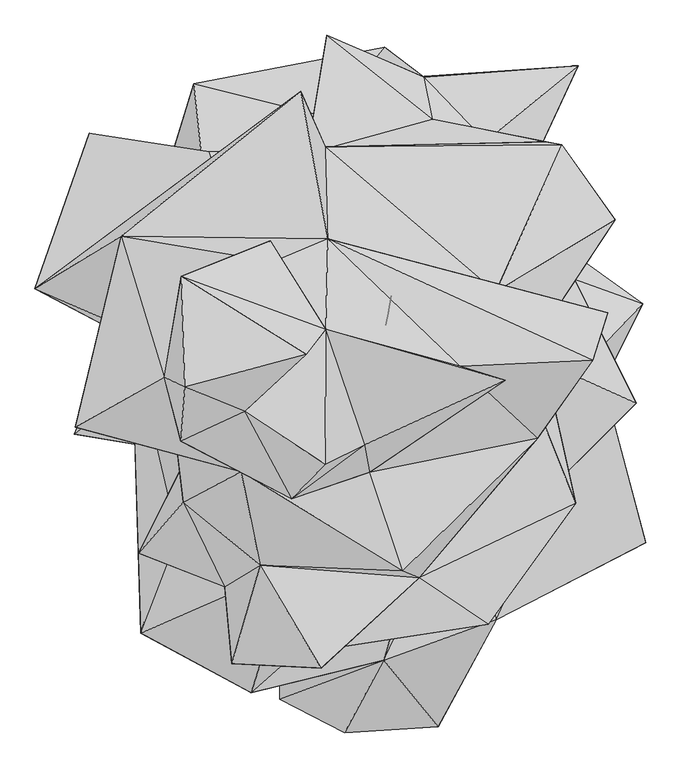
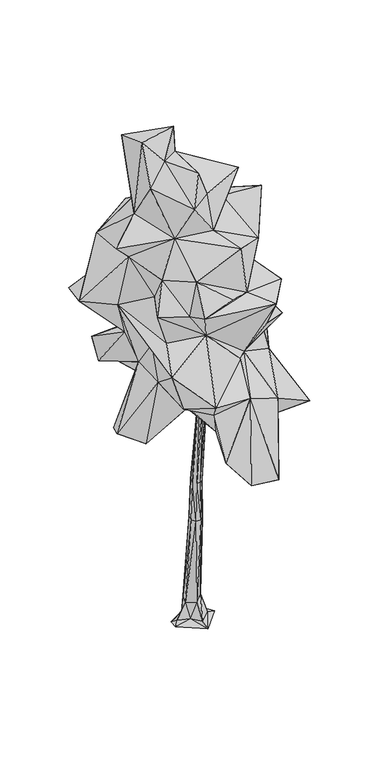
"""IFC4 building model written with IfcOpenShell, lengths in millimetres: geographic element geometry, Enscape AssetDefinition - Coniferous Tree 009 Pine : Enscape AssetDefinition - Coniferous Tree 009 Pine."""

from ifc_helpers import new_model, si_unit, origin, place, context, project, spatial, triangles, source, transform, mapped, element, save


def geographic_element_6488e99b(model_context):
    return source(origin(), model_context, "Body", "Tessellation", [
        triangles([(499.1071077, -53.7923425, -8.8e-06), (82.765088, -526.4381066, -8.58e-05), (339.292662, -63.4904197, 45.2996287), (148.7649384, 65.0087227, 469.814855), (178.4494819, -66.7721098, 534.6632586), (-2.2236776, 257.9543856, 68.2709645), (182.0356547, 416.6829964, 6.79e-05), (-124.7051879, 162.7058026, 52.4895922), (-120.9819504, 102.3085808, 488.2888364), (-429.4691709, 53.2955251, 8.7e-06), (-342.1794044, -49.5813986, 65.3348065), (-151.8270517, -44.1196816, 436.7688706), (-125.9190037, -216.0081995, 2517.1225204), (-436.3051635, -143.9629968, -2.35e-05), (-120.2130203, -194.1723958, 114.8973291), (5.5877693, -219.116113, 474.5141685), (40.9406015, -384.6553001, 113.2717561), (-84.3049195, -377.3055307, 3476.4136757), (-61.1686682, -309.5871351, 2517.1225204), (-141.0944128, -302.0524751, 3476.413385), (42.945421, -321.6737884, 2517.1225204), (55.4958268, -343.8549199, 3476.4136757), (104.521945, -265.009024, 2517.1225204), (88.3457248, -258.9421341, 3476.4136757), (143.0284336, -165.474093, 2517.1225204), (107.5918339, -87.1927247, 2517.1225204), (58.1143534, -192.1596734, 3476.4136757), (98.5445028, 247.2665387, 63.463173), (53.6780417, 145.9021226, 548.1573478), (-9.5415506, -54.1181266, 2517.1225204), (-55.7348111, 134.6954211, 466.5112049), (-41.8128048, -143.7232676, 3476.413385), (-45.7711297, -466.9402122, 6320.6636124), (-112.7295381, -515.285735, 6320.6636124), (-104.3563301, -98.8741701, 2517.1225204), (-122.6990785, -202.1246538, 3476.4136757), (-127.9569244, -598.0060129, 6320.6636124), (-79.128891, -654.9337881, 6320.6636124), (34.7813299, -632.6106594, 6320.6636124), (-14.5746986, -657.5386436, 6320.6636124), (0.0292247, -384.6513033, 3476.413385), (61.9746192, -562.3186927, 6320.6636124), (36.9491573, -507.0359116, 6320.6636124), (-1356.8218323, 279.5691454, 7175.8573425), (-1365.5029884, 899.681349, 8575.2515762), (-2197.8383755, 1028.8288439, 8072.2067001), (-732.2970892, 1318.6780849, 9539.1723907), (-2576.096537, -50.2614397, 8533.3070435), (-1214.3785646, 417.0926371, 8951.6094177), (-1680.3625488, -665.164559, 10705.6988617), (-1977.4500835, 313.77725, 9763.299408), (-1676.6476593, -444.5759886, 9535.3766922), (-941.8339359, 280.6309084, 11604.0986755), (-920.7576788, 136.5446633, 10697.1610107), (-1559.8701942, 33.9837905, 12142.8064911), (-1120.6977276, -903.1876757, 11913.1321381), (-1536.5592625, -730.1845728, 12402.0290405), (-1563.2654812, -1108.0381805, 11529.7694916), (-691.9871223, -506.9037249, 12372.485495), (-794.3387238, -1509.3737125, 11000.2576263), (-562.7196856, -1267.9728951, 11651.9271515), (-1144.1996361, -1321.061079, 10312.8030762), (-287.3642183, -1133.8520119, 10982.1017578), (687.6163862, -686.516744, 11007.1339508), (911.3175573, -1087.0480373, 9467.4883942), (-252.572483, -1323.0560154, 10202.0284424), (373.3446533, -587.5357944, 10385.1602875), (-558.7691637, -333.7139328, 11617.3560059), (1294.3614006, -549.133124, 10273.865918), (-1013.4209181, -1971.1610779, 9610.8988266), (-22.3387369, -2006.7570156, 10091.7654053), (-1258.5358257, -2120.4221706, 8958.6438721), (-1545.6007164, -1531.3594345, 9578.4356918), (-590.7331647, -2682.588002, 9477.0785065), (-2295.2113564, -1010.8976709, 10283.8315887), (-1427.2189888, -1030.8734138, 8837.7198578), (-1856.0279892, -1885.7301006, 9002.9725616), (-1904.95509, -405.1574644, 8431.8876526), (-1584.4989235, -1776.5632175, 8218.2483673), (-1840.0977116, -2440.0217033, 7883.7251816), (-1639.8459812, -2540.4670258, 7111.5914978), (-1360.5640457, -801.9786644, 7525.4261215), (-1058.3256626, 1101.9397882, 5884.9843918), (-2302.65378, -1058.5864752, 5864.2693771), (-1342.2295544, -262.1612509, 6775.2283081), (-1575.0163628, -959.7411278, 5300.2590363), (-2087.457613, -551.6418371, 5624.3718109), (-779.004122, -1185.7295866, 6013.6614212), (-457.1203174, -222.1913795, 5691.7159561), (361.9658784, -600.082158, 5799.6250671), (382.9543865, -1901.8224323, 5209.2064545), (-669.3983849, -2141.633812, 5991.6116043), (-427.4695836, -3132.4759483, 5206.3560471), (220.9383492, -3088.8521576, 5101.6362762), (-156.4354368, -2627.0347069, 6919.3328842), (-878.5474646, -2900.2040794, 5767.3380844), (-872.4668037, -2428.7418686, 6630.1482101), (-1445.9294746, -1204.0095028, 6892.7350891), (626.3217264, -2348.2265797, 6467.7703308), (75.9096289, -1831.7597031, 7297.6510712), (721.6814581, 505.2440151, 5965.7003952), (-8.2420239, 517.3977791, 5325.1458893), (24.5630651, 1417.7980522, 5371.7506027), (677.1721836, 830.0088575, 5188.2455246), (-150.6028441, 1625.3188156, 6297.3749176), (-1647.1552734, 804.8417164, 6253.5200363), (-1473.2371101, 1371.7877792, 6449.3284332), (125.429317, 1416.3665989, 6908.2085632), (1193.0970875, 1496.7124214, 6686.1825806), (551.8143193, 972.5363497, 7049.3540176), (184.8431869, 1126.5005711, 7377.3020233), (-546.0167444, 1137.9458027, 6658.5865906), (-550.2874866, 1709.3892654, 7257.8866379), (1449.0792824, 427.3337634, 8156.3550522), (970.7761374, 967.5304052, 7833.8497375), (-560.4777803, 934.5789282, 8397.6914841), (1080.7904251, 948.0983065, 8384.9742371), (-687.3390776, 886.2881258, 7700.5898483), (-543.1696072, 294.0186268, 10283.3781281), (620.476807, -72.6951267, 9341.36586), (790.2023483, -570.8338706, 8898.899263), (1398.3566517, -218.2928166, 9789.8036041), (1004.3963236, 343.169206, 7516.838855), (1176.2079294, -1540.434462, 8662.3113785), (570.5123059, -2379.1408264, 8790.369841), (-1209.2026451, -2652.3195007, 9198.5838776), (89.9816624, -2056.5395874, 9032.0998535), (530.8698492, -1169.0081509, 6926.1051453), (1594.5111031, -845.2720974, 7274.7437485), (956.5359455, -557.5883855, 8169.9484085), (770.5134338, -1666.7164341, 7816.4217316), (599.7344321, 218.9447572, 6911.8810135), (1300.8235062, -507.2203843, 6995.4788177), (1368.7632545, -705.149037, 6414.0398895), (-807.4443192, -1991.432515, 8272.4008759), (-1075.5533175, -2853.2522942, 7132.1640793), (1641.7772587, -153.1945191, 6487.6319092), (1661.9437603, -1812.4956173, 5726.4161636), (1034.2796013, -759.2070019, 6020.9627197), (1084.3506729, -1522.4647739, 5465.8500916), (797.8689589, -1538.856506, 5706.3144836)], [[141, 140, 99], [140, 138, 99], [141, 139, 140], [138, 140, 139], [101, 137, 139], [137, 101, 132], [132, 133, 137], [139, 137, 134], [137, 133, 134], [139, 134, 138], [138, 134, 99], [100, 135, 136], [133, 128, 134], [134, 128, 99], [128, 135, 100], [129, 128, 133], [123, 129, 133], [132, 123, 133], [130, 129, 123], [129, 131, 128], [131, 129, 130], [131, 125, 128], [126, 135, 125], [135, 128, 125], [126, 127, 74], [126, 125, 127], [131, 124, 125], [131, 130, 124], [124, 127, 125], [123, 121, 130], [124, 130, 121], [124, 121, 127], [69, 121, 122], [122, 119, 69], [120, 122, 121], [119, 122, 120], [123, 114, 121], [114, 120, 121], [114, 117, 120], [117, 116, 120], [116, 119, 120], [118, 45, 116], [115, 117, 114], [115, 116, 117], [115, 114, 123], [116, 115, 118], [110, 115, 123], [110, 123, 132], [111, 115, 110], [118, 115, 111], [118, 111, 113], [113, 112, 118], [107, 112, 105], [105, 112, 108], [110, 108, 111], [108, 112, 113], [108, 113, 111], [109, 108, 110], [109, 132, 101], [132, 109, 110], [104, 109, 101], [103, 105, 108], [103, 109, 104], [108, 109, 103], [83, 106, 107], [83, 107, 105], [83, 105, 103], [102, 104, 101], [103, 104, 102], [83, 103, 102], [89, 83, 102], [89, 102, 101], [90, 101, 139], [89, 101, 90], [139, 141, 91], [141, 99, 91], [91, 90, 139], [91, 99, 94], [100, 95, 128], [95, 100, 136], [99, 128, 95], [99, 95, 94], [81, 97, 136], [81, 98, 97], [97, 95, 136], [95, 97, 96], [93, 95, 96], [95, 93, 94], [93, 91, 94], [92, 97, 98], [92, 96, 97], [92, 93, 96], [93, 92, 91], [89, 90, 88], [88, 90, 91], [92, 88, 91], [88, 92, 98], [89, 88, 86], [88, 98, 86], [86, 98, 84], [87, 86, 84], [86, 87, 89], [84, 85, 87], [85, 106, 83], [84, 98, 85], [85, 83, 89], [87, 85, 89], [82, 85, 98], [81, 136, 80], [82, 98, 80], [136, 135, 80], [80, 98, 81], [135, 79, 80], [78, 85, 82], [79, 78, 80], [78, 82, 80], [78, 52, 48], [76, 78, 79], [78, 76, 52], [79, 135, 77], [77, 76, 79], [135, 72, 77], [135, 126, 72], [73, 76, 77], [72, 73, 77], [76, 73, 52], [52, 73, 62], [50, 75, 62], [75, 52, 62], [74, 70, 126], [62, 73, 70], [72, 70, 73], [74, 127, 70], [126, 70, 72], [70, 71, 62], [70, 127, 71], [121, 65, 127], [71, 127, 65], [69, 65, 121], [67, 65, 69], [67, 69, 119], [68, 67, 119], [64, 67, 68], [64, 66, 67], [71, 65, 66], [62, 71, 66], [66, 65, 67], [63, 66, 64], [68, 63, 64], [61, 63, 68], [60, 63, 61], [60, 66, 63], [60, 62, 66], [58, 50, 62], [58, 62, 60], [56, 58, 60], [56, 60, 61], [56, 61, 68], [59, 56, 68], [57, 58, 56], [57, 50, 58], [56, 59, 57], [59, 68, 55], [55, 50, 57], [57, 59, 55], [68, 53, 55], [55, 53, 50], [68, 119, 54], [53, 68, 54], [53, 54, 50], [119, 51, 54], [51, 52, 75], [48, 52, 51], [51, 75, 50], [54, 51, 50], [119, 47, 51], [116, 47, 119], [48, 51, 47], [49, 47, 116], [45, 49, 116], [47, 49, 48], [46, 49, 45], [49, 46, 48], [106, 44, 107], [44, 46, 45], [78, 48, 44], [85, 44, 106], [44, 85, 78], [46, 44, 48], [112, 44, 118], [107, 44, 112], [44, 45, 118], [42, 22, 43], [22, 24, 43], [39, 22, 42], [39, 40, 41], [39, 41, 22], [38, 41, 40], [18, 38, 37], [38, 18, 41], [34, 20, 37], [20, 18, 37], [35, 9, 13], [36, 13, 20], [35, 13, 36], [33, 20, 34], [33, 36, 20], [43, 24, 33], [32, 36, 33], [32, 30, 36], [30, 35, 36], [30, 9, 35], [30, 31, 9], [32, 33, 27], [24, 27, 33], [27, 30, 32], [27, 26, 30], [26, 29, 30], [29, 31, 30], [29, 28, 31], [4, 28, 29], [25, 26, 27], [25, 29, 26], [25, 4, 29], [24, 23, 27], [23, 25, 27], [22, 23, 24], [25, 5, 4], [25, 23, 5], [22, 21, 23], [21, 22, 41], [18, 21, 41], [21, 5, 23], [19, 18, 20], [13, 19, 20], [18, 19, 21], [19, 16, 21], [21, 16, 5], [16, 17, 5], [15, 17, 16], [15, 2, 17], [15, 14, 2], [19, 12, 16], [19, 13, 12], [9, 12, 13], [12, 15, 16], [14, 15, 11], [12, 11, 15], [14, 11, 10], [9, 8, 12], [8, 11, 12], [10, 11, 8], [28, 6, 31], [31, 6, 9], [6, 8, 9], [6, 7, 8], [7, 10, 8], [7, 6, 28], [17, 3, 5], [3, 4, 5], [4, 3, 28], [17, 2, 3], [2, 1, 3], [3, 7, 28], [3, 1, 7]], closed=False),
    ])


if __name__ == "__main__":
    model = new_model("IFC4")
    model_context = context("Model", 3, world=origin())
    ifc_project = project(units=[si_unit("LENGTHUNIT", "METRE", prefix="MILLI")], contexts=[model_context])
    site = spatial("IfcSite", under=ifc_project)
    building = spatial("IfcBuilding", under=site)
    placement = place(None, origin())
    geographic_element_shape = geographic_element_6488e99b(model_context)
    element("IfcGeographicElement", 1, ObjectType="Enscape AssetDefinition - Coniferous Tree 009 Pine : Enscape AssetDefinition - Coniferous Tree 009 Pine", at=placement, inside=building, context=model_context, shape_type="MappedRepresentation", body=[
        mapped(geographic_element_shape, transform((0.0, 0.0, 0.0), x_axis=(1.0, 0.0, 0.0), y_axis=(0.0, 1.0, 0.0), z_axis=(0.0, 0.0, 1.0))),
    ])
    save(model, "model.ifc")
